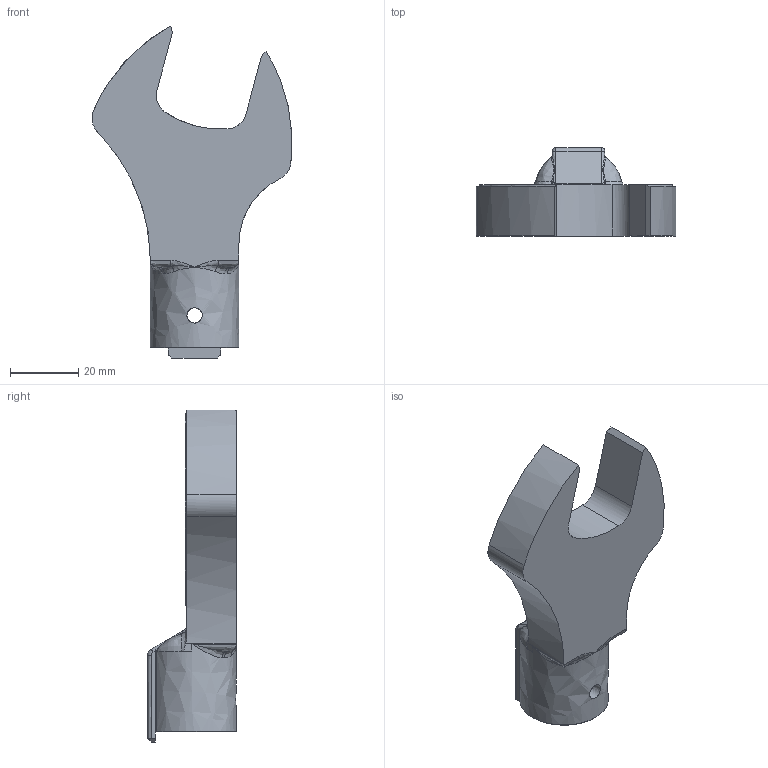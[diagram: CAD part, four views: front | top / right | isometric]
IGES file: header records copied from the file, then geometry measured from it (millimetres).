
Global section: file name: SH19DX27; native system: Autodesk Inventor 2016; preprocessor: unknown; author: Q600; date: 20151029.175813; units: millimetre
Bounding box: 58.65 x 26 x 97.36 mm (x, y, z)
Volume: 39495.3 mm3; surface area: 11877.7 mm2
Topology: 1 solids, 1 shells, 98 faces, 268 edges, 164 vertices
Faces by surface type: bspline 98
